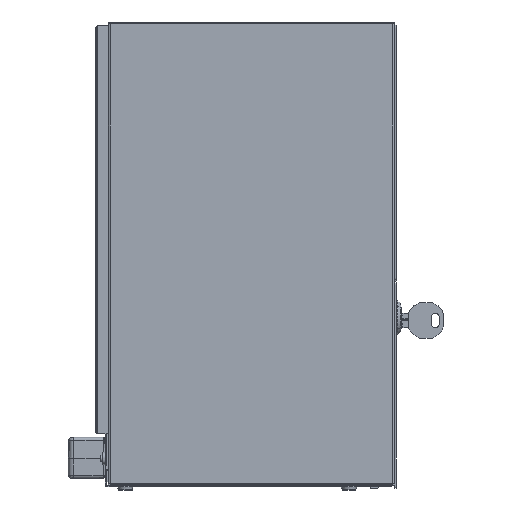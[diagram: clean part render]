
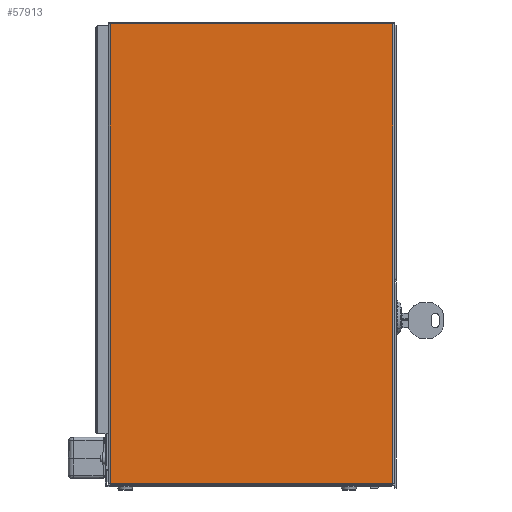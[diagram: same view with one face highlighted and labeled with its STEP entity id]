
A CAD part, left-side view. The second image highlights one B-rep face of the part: STEP entity #57913.
In plain terms, the highlighted planar face has unit normal (-1, 0, 0).
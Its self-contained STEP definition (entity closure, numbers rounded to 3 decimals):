
#1578 = ORIENTED_EDGE ( 'NONE', *, *, #22241, .F. ) ;
#2814 = DIRECTION ( 'NONE',  ( 0., 0., -1. ) ) ;
#5419 = CARTESIAN_POINT ( 'NONE',  ( -52., -99.3, -150.3 ) ) ;
#5805 = VERTEX_POINT ( 'NONE', #53873 ) ;
#13110 = EDGE_CURVE ( 'NONE', #15741, #28564, #18468, .T. ) ;
#15741 = VERTEX_POINT ( 'NONE', #38237 ) ;
#17783 = EDGE_CURVE ( 'NONE', #28564, #29049, #51630, .T. ) ;
#18468 = LINE ( 'NONE', #39690, #67352 ) ;
#18532 = DIRECTION ( 'NONE',  ( 0., 0., 1. ) ) ;
#18980 = VECTOR ( 'NONE', #2814, 1000. ) ;
#22241 = EDGE_CURVE ( 'NONE', #5805, #15741, #67689, .T. ) ;
#23876 = DIRECTION ( 'NONE',  ( -1., 0., 0. ) ) ;
#24414 = CARTESIAN_POINT ( 'NONE',  ( -52., 84.3, -148.3 ) ) ;
#28564 = VERTEX_POINT ( 'NONE', #61747 ) ;
#28702 = ORIENTED_EDGE ( 'NONE', *, *, #66881, .F. ) ;
#29049 = VERTEX_POINT ( 'NONE', #5419 ) ;
#36961 = CARTESIAN_POINT ( 'NONE',  ( -52., -99.3, -150.3 ) ) ;
#38225 = LINE ( 'NONE', #36961, #74595 ) ;
#38237 = CARTESIAN_POINT ( 'NONE',  ( -52., 84.3, 148.3 ) ) ;
#39690 = CARTESIAN_POINT ( 'NONE',  ( -52., 69.3, 148.3 ) ) ;
#39892 = FACE_OUTER_BOUND ( 'NONE', #74860, .T. ) ;
#41218 = ORIENTED_EDGE ( 'NONE', *, *, #13110, .F. ) ;
#42148 = PLANE ( 'NONE',  #63416 ) ;
#45887 = DIRECTION ( 'NONE',  ( 0., -1., 0. ) ) ;
#49369 = DIRECTION ( 'NONE',  ( 0., 1., 0. ) ) ;
#51437 = VECTOR ( 'NONE', #18532, 1000. ) ;
#51630 = LINE ( 'NONE', #76072, #18980 ) ;
#53873 = CARTESIAN_POINT ( 'NONE',  ( -52., 84.3, -150.3 ) ) ;
#57913 = ADVANCED_FACE ( 'NONE', ( #39892 ), #42148, .T. ) ;
#60583 = CARTESIAN_POINT ( 'NONE',  ( -52., 70.5, 149.5 ) ) ;
#61747 = CARTESIAN_POINT ( 'NONE',  ( -52., -99.3, 148.3 ) ) ;
#63416 = AXIS2_PLACEMENT_3D ( 'NONE', #60583, #23876, #66739 ) ;
#66739 = DIRECTION ( 'NONE',  ( 0., 0., -1. ) ) ;
#66881 = EDGE_CURVE ( 'NONE', #29049, #5805, #38225, .T. ) ;
#67352 = VECTOR ( 'NONE', #45887, 1000. ) ;
#67689 = LINE ( 'NONE', #24414, #51437 ) ;
#69431 = ORIENTED_EDGE ( 'NONE', *, *, #17783, .F. ) ;
#74595 = VECTOR ( 'NONE', #49369, 1000. ) ;
#74860 = EDGE_LOOP ( 'NONE', ( #41218, #1578, #28702, #69431 ) ) ;
#76072 = CARTESIAN_POINT ( 'NONE',  ( -52., -99.3, -19.5 ) ) ;
